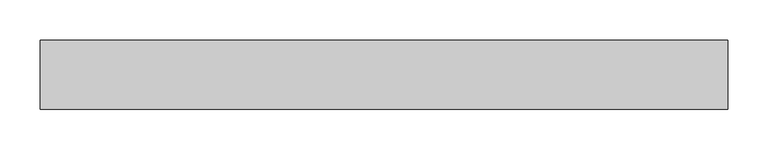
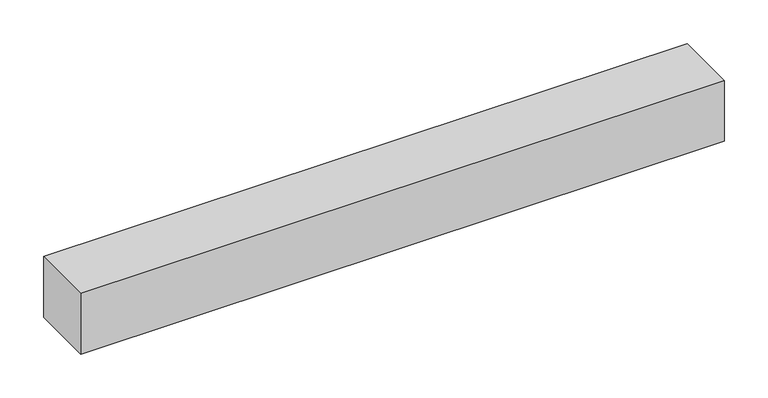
"""IFC4 building model written with IfcOpenShell, lengths in millimetres: proxy geometry, Building-Materials_Other_Daliform_Simple-Family_Accessory_PANEL_for ATLANTIS : PANEL_ATLANTIS-100_diam160_8.5x85x8.5."""

from ifc_helpers import new_model, si_unit, origin, origin_with_axes, place, context, project, spatial, polyline, outline, extrude, source, transform, mapped, element, save


def generic_models_ee2e0081(model_context):
    return source(origin(), model_context, "Body", "SweptSolid", [
        extrude(outline(polyline([(0.0, -85.0), (0.0, 0.0), (850.0, 0.0), (850.0, -85.0), (0.0, -85.0)])), origin_with_axes(), (0.0, 0.0, 1.0), 85.0),
    ])


if __name__ == "__main__":
    model = new_model("IFC4")
    model_context = context("Model", 3, world=origin())
    ifc_project = project(units=[si_unit("LENGTHUNIT", "METRE", prefix="MILLI")], contexts=[model_context])
    site = spatial("IfcSite", under=ifc_project)
    building = spatial("IfcBuilding", under=site)
    placement = place(None, origin())
    generic_models_shape = generic_models_ee2e0081(model_context)
    element("IfcBuildingElementProxy", 1, Name="Building-Materials_Other_Daliform_Simple-Family_Accessory_PANEL_for ATLANTIS : PANEL_ATLANTIS-100_diam160_8.5x85x8.5", ObjectType="Building-Materials_Other_Daliform_Simple-Family_Accessory_PANEL_for ATLANTIS : PANEL_ATLANTIS-100_diam160_8.5x85x8.5", at=placement, inside=building, context=model_context, shape_type="MappedRepresentation", body=[
        mapped(generic_models_shape, transform((0.0, 0.0, 0.0), x_axis=(1.0, 0.0, 0.0), y_axis=(0.0, 1.0, 0.0), z_axis=(0.0, 0.0, 1.0))),
    ])
    save(model, "model.ifc")
